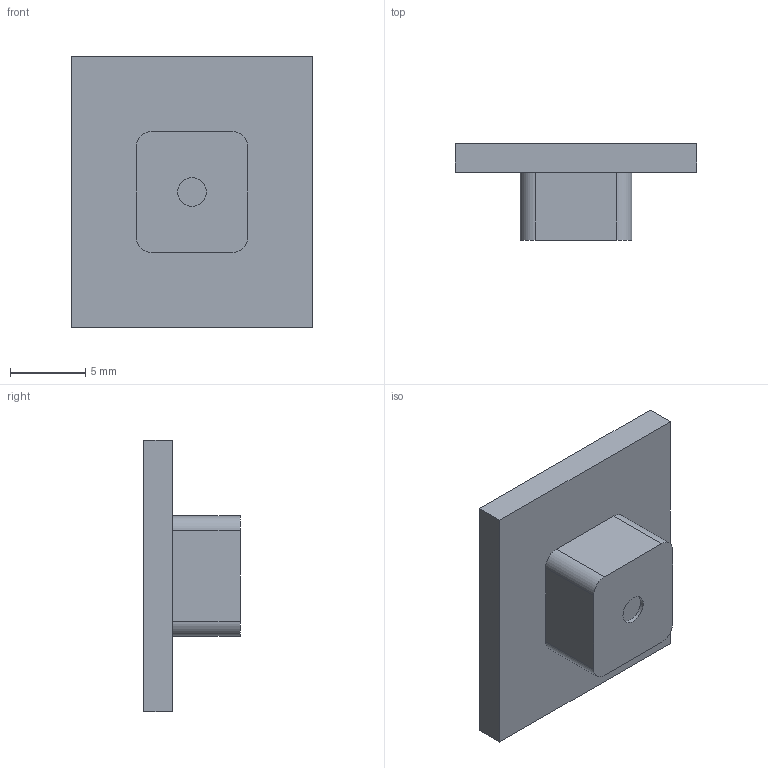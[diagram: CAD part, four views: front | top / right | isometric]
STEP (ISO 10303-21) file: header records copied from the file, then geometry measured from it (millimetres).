
FILE_DESCRIPTION(('Open CASCADE Model'),'2;1');
FILE_NAME('Open CASCADE Shape Model','2026-09-06T11:49:07',('Author'),( 'Open CASCADE'),'Open CASCADE STEP processor 7.8','build123d', 'Unknown');
FILE_SCHEMA(('AUTOMOTIVE_DESIGN { 1 0 10303 214 1 1 1 1 }'));
Length unit declared in the file: millimetre
Products named in the file (2): =>[0:1:1:2]; SOLID
Assembly tree (1 placements, depth 2):
  =>[0:1:1:2]
    SOLID
Bounding box: 16 x 6.4 x 18 mm (x, y, z)
Volume: 746.7 mm3; surface area: 935.5 mm2
Topology: 1 solids, 1 shells, 23 faces, 54 edges, 36 vertices
Faces by surface type: plane 17, cylinder 6
Full cylindrical faces by diameter (mm): 1.9 x2
Entity records: 1380 total; most frequent: CARTESIAN_POINT 291, DIRECTION 186, ORIENTED_EDGE 108, PCURVE 108, DEFINITIONAL_REPRESENTATION 108, LINE 106, VECTOR 106, EDGE_CURVE 54
